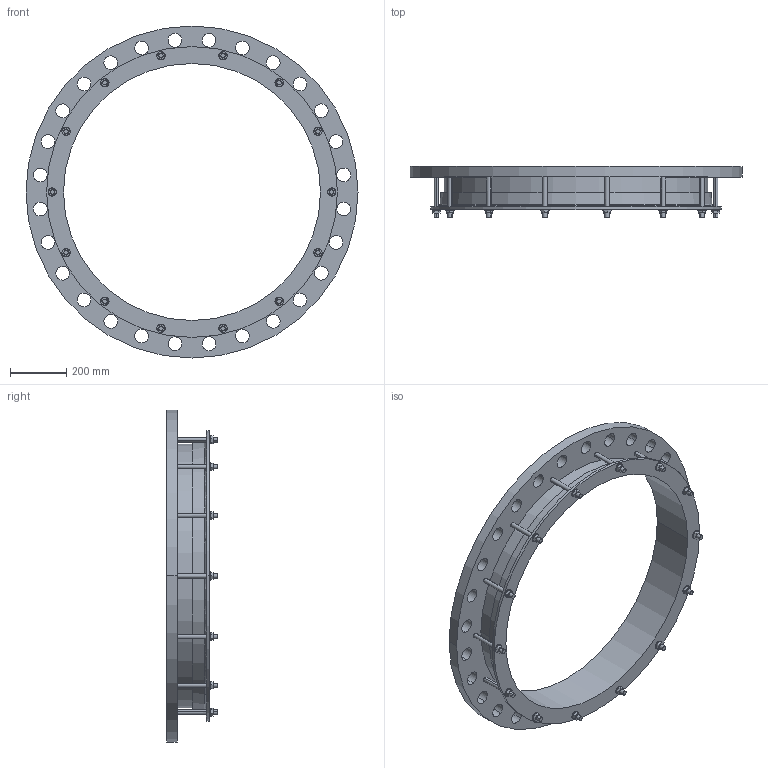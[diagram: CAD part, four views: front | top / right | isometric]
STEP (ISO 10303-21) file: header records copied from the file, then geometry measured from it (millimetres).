
FILE_DESCRIPTION((''),'2;1');
FILE_NAME('914X900PN25','2019-04-04T',('mfairey'),('Glynwed Pipe Systems'),'CREO PARAMETRIC BY PTC INC, 2016130','CREO PARAMETRIC BY PTC INC, 2016130','');
FILE_SCHEMA(('CONFIG_CONTROL_DESIGN'));
Length unit declared in the file: millimetre
Products named in the file (1): 914X900PN25
Bounding box: 1185 x 182 x 1185 mm (x, y, z)
Volume: 22788283.6 mm3; surface area: 2247988.5 mm2
Topology: 1 solids, 1 shells, 284 faces, 752 edges, 500 vertices
Faces by surface type: cylinder 148, plane 130, cone 4, torus 2
Entity records: 9998 total; most frequent: CARTESIAN_POINT 2552, DIRECTION 1548, ORIENTED_EDGE 1504, EDGE_CURVE 752, AXIS2_PLACEMENT_3D 572, VERTEX_POINT 500, VECTOR 404, LINE 404
